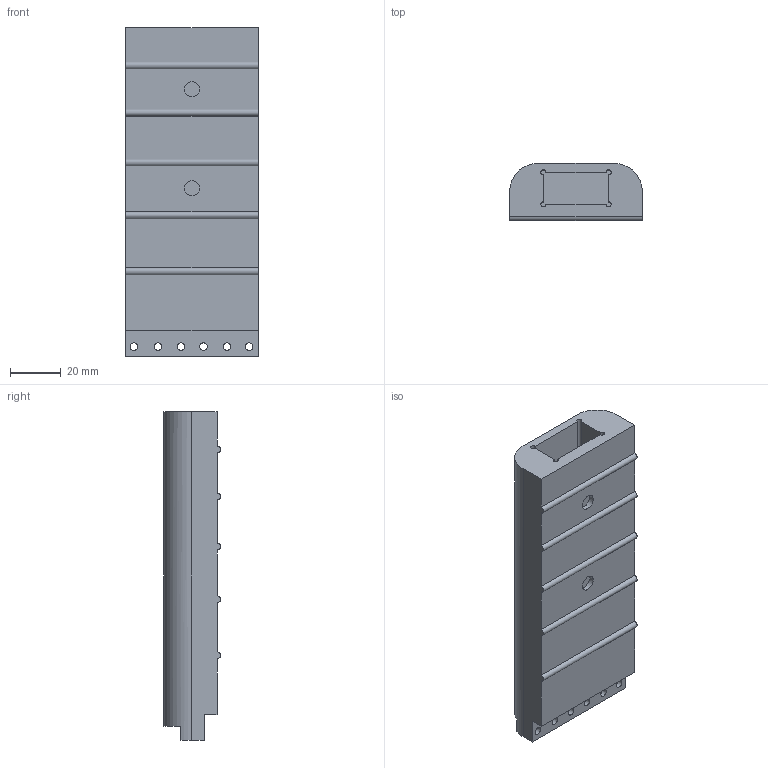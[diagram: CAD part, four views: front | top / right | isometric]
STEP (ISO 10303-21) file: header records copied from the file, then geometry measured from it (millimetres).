
FILE_DESCRIPTION(('STEP AP203'), '1');
FILE_NAME('ëàä 1áåç ãâîçäåé', '', ('UNSPECIFIED'), ('UNSPECIFIED'), 'ASCON STEP Converter 1.3', 'ASCON Math Kernel', '');
FILE_SCHEMA(('CONFIG_CONTROL_DESIGN'));
Length unit declared in the file: millimetre
Bounding box: 52 x 22.35 x 128.87 mm (x, y, z)
Volume: 91164.8 mm3; surface area: 30745.7 mm2
Topology: 1 solids, 1 shells, 41 faces, 108 edges, 72 vertices
Faces by surface type: plane 22, cylinder 19
Full cylindrical faces by diameter (mm): 3 x6, 6 x2
Entity records: 1638 total; most frequent: DIRECTION 224, CARTESIAN_POINT 214, ORIENTED_EDGE 200, EDGE_CURVE 100, AXIS2_PLACEMENT_3D 82, VERTEX_POINT 72, EDGE_LOOP 64, LINE 60
